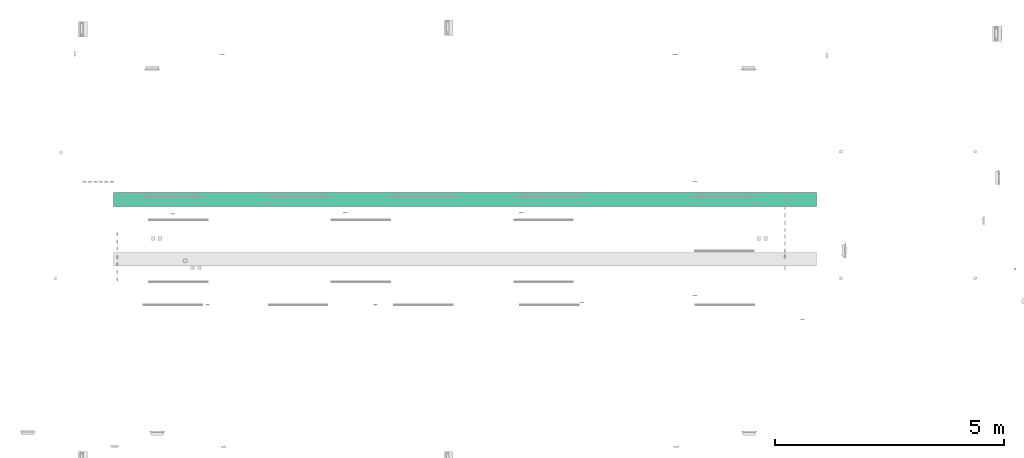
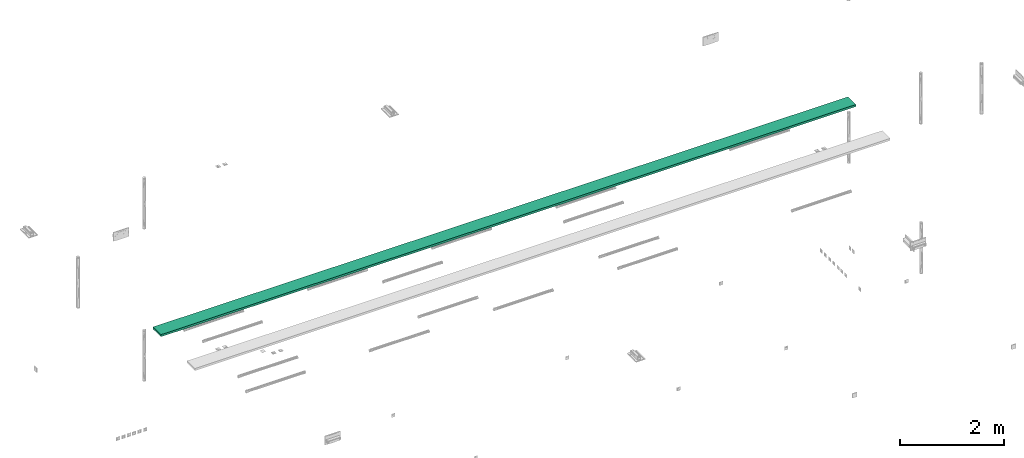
# One storey, part 3 of 146: 1 flow segment.
"""IFC2X3 building model written with IfcOpenShell, lengths in metres."""

from ifc_helpers import new_model, entity, si_unit, converted_unit, derived_unit, direction, frame, frame_2d, origin, place, context, subcontext, project, spatial, rectangle, extrude, type_object, element, save


model = new_model("IFC2X3")

# Units and contexts
model_context = context("Model", 3, precision=1e-05, world=origin(), true_north=direction((6.12303176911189e-17, 1.0)))
body_context = subcontext(model_context, "Body", "Model", "MODEL_VIEW")
ifc_project = project(units=[si_unit("LENGTHUNIT", "METRE"), si_unit("AREAUNIT", "SQUARE_METRE"), si_unit("VOLUMEUNIT", "CUBIC_METRE"), converted_unit("PLANEANGLEUNIT", "DEGREE", entity("IfcRatioMeasure", 0.0174532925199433), si_unit("PLANEANGLEUNIT", "RADIAN"), dimensions=[0, 0, 0, 0, 0, 0, 0]), si_unit("MASSUNIT", "GRAM", prefix="KILO"), derived_unit("MASSDENSITYUNIT", [(si_unit("MASSUNIT", "GRAM", prefix="KILO"), 1), (si_unit("LENGTHUNIT", "METRE"), -3)]), si_unit("TIMEUNIT", "SECOND"), si_unit("FREQUENCYUNIT", "HERTZ"), si_unit("THERMODYNAMICTEMPERATUREUNIT", "DEGREE_CELSIUS"), derived_unit("THERMALTRANSMITTANCEUNIT", [(si_unit("MASSUNIT", "GRAM", prefix="KILO"), 1), (si_unit("THERMODYNAMICTEMPERATUREUNIT", "KELVIN"), -1), (si_unit("TIMEUNIT", "SECOND"), -3)]), derived_unit("VOLUMETRICFLOWRATEUNIT", [(si_unit("LENGTHUNIT", "METRE"), 3), (si_unit("TIMEUNIT", "SECOND"), -1)]), si_unit("ELECTRICCURRENTUNIT", "AMPERE"), si_unit("ELECTRICVOLTAGEUNIT", "VOLT"), si_unit("POWERUNIT", "WATT"), si_unit("FORCEUNIT", "NEWTON"), si_unit("ILLUMINANCEUNIT", "LUX"), si_unit("LUMINOUSFLUXUNIT", "LUMEN"), si_unit("LUMINOUSINTENSITYUNIT", "CANDELA"), derived_unit("USERDEFINED", [(si_unit("MASSUNIT", "GRAM", prefix="KILO"), -1), (si_unit("LENGTHUNIT", "METRE"), -2), (si_unit("TIMEUNIT", "SECOND"), 3), (si_unit("LUMINOUSFLUXUNIT", "LUMEN"), 1)]), derived_unit("LINEARVELOCITYUNIT", [(si_unit("LENGTHUNIT", "METRE"), 1), (si_unit("TIMEUNIT", "SECOND"), -1)]), si_unit("PRESSUREUNIT", "PASCAL"), derived_unit("USERDEFINED", [(si_unit("LENGTHUNIT", "METRE"), -2), (si_unit("MASSUNIT", "GRAM", prefix="KILO"), 1), (si_unit("TIMEUNIT", "SECOND"), -2)])], contexts=[model_context])

# Site, building, storey
site_placement = place(None, origin())
site = spatial("IfcSite", under=ifc_project, at=site_placement, Name="Default", CompositionType="ELEMENT")
building_placement = place(site_placement, origin())
building = spatial("IfcBuilding", under=site, at=building_placement, CompositionType="ELEMENT")
storey_placement = place(building_placement, origin())
storey = spatial("IfcBuildingStorey", under=building, at=storey_placement, Name="S01", CompositionType="ELEMENT", Elevation=0.0)

# Flow segment
cable_carrier_segment_type = type_object("IfcCableCarrierSegmentType", Name="Cable Tray with Fittings:Chemins de câbles en treillis_Chemins de câbles en treillis", PredefinedType="NOTDEFINED")
flow_segment_placement = place(storey_placement, origin())
element("IfcFlowSegment", 1, at=flow_segment_placement, inside=storey, type_object=cable_carrier_segment_type, Name="Cable Tray with Fittings:Chemins de câbles en treillis_Chemins de câbles en treillis", ObjectType="Cable Tray with Fittings:Chemins de câbles en treillis_Chemins de câbles en treillis", context=body_context, shape_type="SweptSolid", body=[
    extrude(rectangle(XDim=0.300000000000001, YDim=15.3726949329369, at=frame_2d((-1.73333569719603e-14, 0.0), x_axis=(1.0, 0.0))), frame((33.8040868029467, -188.090614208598, 3.52999680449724), z_axis=(-1.23590478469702e-06, 0.0, 1.0), x_axis=(0.0, 1.0, 0.0)), (0.0, 0.0, 1.0), 0.0500000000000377),
])

save(model, "model.ifc")
